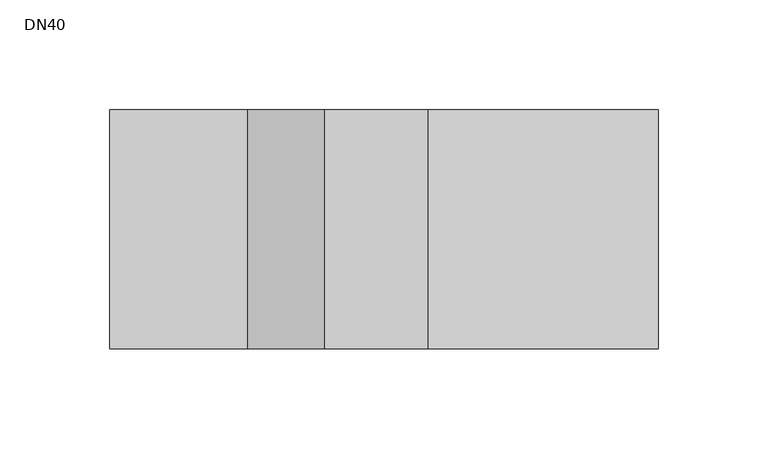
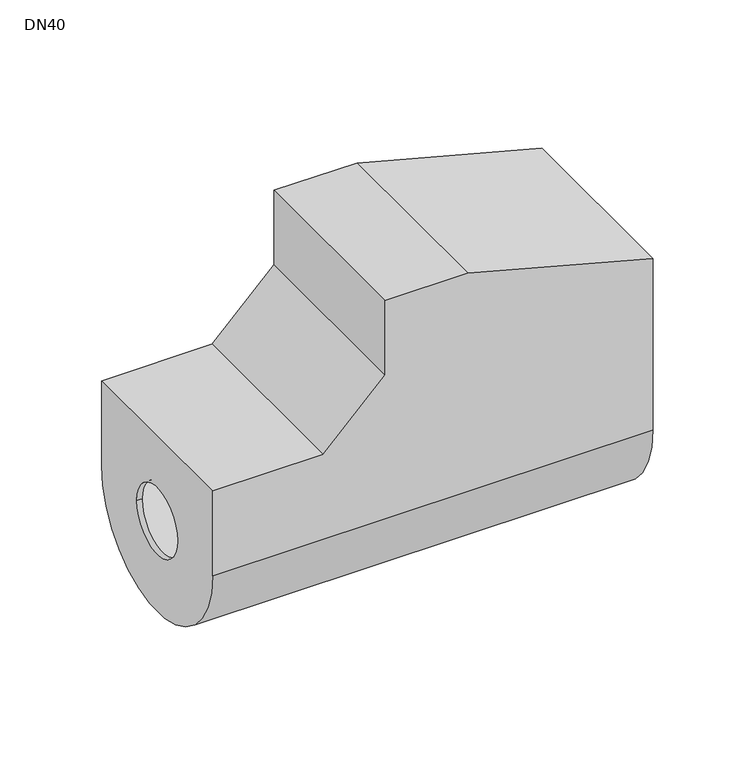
"""IFC4 building model written with IfcOpenShell, lengths in millimetres: valve geometry, 400_5-_KOMF_Isolatieschaal_DN20-50 : DN40."""

from ifc_helpers import new_model, si_unit, frame, origin, place, context, project, spatial, polyline, circle_curve, source, transform, mapped, element, save
from ifc_brep_helpers import plane_surface, cylinder_surface, revolved_surface, advanced_brep


def dn40_05d662e0(model_context):
    return source(origin(), model_context, "Body", "AdvancedBrep", [
        advanced_brep(
        [(0.0, 54.5, 131.0), (47.0, 54.5, 131.0), (152.0, 54.5, 102.9711306), (152.0, 54.5, 0.0), (-98.0, 54.5, 0.0), (-98.0, 54.5, 51.0), (-35.3553391, 54.5, 51.0), (0.0, 54.5, 86.3553391), (152.0, -54.5, 102.9711306), (47.0, -54.5, 131.0), (0.0, -54.5, 131.0), (0.0, -54.5, 86.3553391), (-35.3553391, -54.5, 51.0), (-98.0, -54.5, 51.0), (-98.0, -54.5, 0.0), (152.0, -54.5, 0.0), (-98.0, 7.3654599, -54.0), (-98.0, -7.3654599, -54.0), (-98.0, -19.9999998, -4e-07), (-98.0, 20.0000002, -4e-07), (152.0, -7.3654599, -54.0), (152.0, 7.3654599, -54.0), (152.0, 20.0000002, -4e-07), (152.0, -19.9999998, -4e-07), (-95.0, -19.9999998, -4e-07), (-95.0, 20.0000002, -4e-07), (149.0, 20.0000002, -4e-07), (149.0, -19.9999998, -4e-07), (149.0, 51.5, 0.0), (149.0, -51.5, 0.0), (149.0, -51.5, 100.6843036), (149.0, 51.5, 100.6843036), (-95.0, -51.5, 48.0), (-95.0, -51.5, 0.0), (-95.0, 51.5, 0.0), (-95.0, 51.5, 48.0), (-34.1126984, -51.5, 48.0), (3.0, -51.5, 85.1126984), (3.0, -51.5, 128.0), (46.5953113, -51.5, 128.0), (46.5953113, 51.5, 128.0), (3.0, 51.5, 128.0), (3.0, 51.5, 85.1126984), (-34.1126984, 51.5, 48.0)],
        [
            (0, 1),
            (1, 2),
            (2, 3),
            (3, 4),
            (4, 5),
            (5, 6),
            (6, 7),
            (7, 0),
            (8, 9),
            (9, 10),
            (10, 11),
            (11, 12),
            (12, 13),
            (13, 14),
            (14, 15),
            (15, 8),
            (13, 5),
            (4, 16, circle_curve(frame((-98.0, 0.0, 0.0), z_axis=(-1.0, 0.0, 0.0), x_axis=(0.0, 1.0, 0.0)), 54.5)),
            (16, 17),
            (17, 14, circle_curve(frame((-98.0, 0.0, 0.0), z_axis=(-1.0, 0.0, 0.0), x_axis=(0.0, 1.0, 0.0)), 54.5)),
            (18, 19, circle_curve(frame((-98.0, 2e-07, -4e-07), z_axis=(1.0, 0.0, 0.0), x_axis=(0.0, 1.0, 0.0)), 20.0)),
            (19, 18, circle_curve(frame((-98.0, 2e-07, -4e-07), z_axis=(1.0, 0.0, 0.0), x_axis=(0.0, 1.0, 0.0)), 20.0)),
            (12, 6),
            (10, 0),
            (7, 11),
            (9, 1),
            (8, 2),
            (15, 20, circle_curve(frame((152.0, 0.0, 0.0), z_axis=(1.0, 0.0, 0.0), x_axis=(0.0, 1.0, 0.0)), 54.5)),
            (20, 21),
            (21, 3, circle_curve(frame((152.0, 0.0, 0.0), z_axis=(1.0, 0.0, 0.0), x_axis=(0.0, 1.0, 0.0)), 54.5)),
            (22, 23, circle_curve(frame((152.0, 2e-07, -4e-07), z_axis=(-1.0, 0.0, 0.0), x_axis=(0.0, 1.0, 0.0)), 20.0)),
            (23, 22, circle_curve(frame((152.0, 2e-07, -4e-07), z_axis=(-1.0, 0.0, 0.0), x_axis=(0.0, 1.0, 0.0)), 20.0)),
            (16, 21),
            (20, 17),
            (18, 24),
            (24, 25, circle_curve(frame((-95.0, 2e-07, -4e-07), z_axis=(1.0, 0.0, 0.0), x_axis=(0.0, 1.0, 0.0)), 20.0)),
            (25, 19),
            (22, 26),
            (26, 27, circle_curve(frame((149.0, 2e-07, -4e-07), z_axis=(-1.0, 0.0, 0.0), x_axis=(0.0, 1.0, 0.0)), 20.0)),
            (27, 23),
            (25, 24, circle_curve(frame((-95.0, 2e-07, -4e-07), z_axis=(1.0, 0.0, 0.0), x_axis=(0.0, 1.0, 0.0)), 20.0)),
            (27, 26, circle_curve(frame((149.0, 2e-07, -4e-07), z_axis=(-1.0, 0.0, 0.0), x_axis=(0.0, 1.0, 0.0)), 20.0)),
            (28, 29, circle_curve(frame((149.0, 0.0, 0.0), z_axis=(-1.0, 0.0, 0.0), x_axis=(0.0, 1.0, 0.0)), 51.5)),
            (29, 30),
            (30, 31),
            (31, 28),
            (32, 33),
            (33, 34, circle_curve(frame((-95.0, 0.0, 0.0), z_axis=(1.0, 0.0, 0.0), x_axis=(0.0, 1.0, 0.0)), 51.5)),
            (34, 35),
            (35, 32),
            (32, 36),
            (36, 37),
            (37, 38),
            (38, 39),
            (39, 30),
            (29, 33),
            (28, 34),
            (31, 40),
            (40, 41),
            (41, 42),
            (42, 43),
            (43, 35),
            (43, 36),
            (41, 38),
            (37, 42),
            (39, 40),
        ],
        [
            plane_surface(frame((-98.0, 54.5, -54.0), z_axis=(0.0, 1.0, 0.0), x_axis=(0.0, 0.0, 1.0))),
            plane_surface(frame((-98.0, -54.5, -54.0), z_axis=(0.0, -1.0, 0.0), x_axis=(0.0, 0.0, -1.0))),
            plane_surface(frame((-98.0, 54.5, -54.0), z_axis=(-1.0, 0.0, 0.0), x_axis=(0.0, -1.0, 0.0))),
            plane_surface(frame((-98.0, 54.5, 51.0), z_axis=(0.0, 0.0, 1.0), x_axis=(0.0, -1.0, 0.0))),
            plane_surface(frame((0.0, 54.5, 51.0), z_axis=(-1.0, 0.0, 0.0), x_axis=(0.0, -1.0, 0.0))),
            plane_surface(frame((0.0, 54.5, 131.0), z_axis=(0.0, 0.0, 1.0), x_axis=(0.0, -1.0, 0.0))),
            plane_surface(frame((47.0, 54.5, 131.0), z_axis=(0.25791065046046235, 0.0, 0.9661687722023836), x_axis=(0.0, -1.0, 0.0))),
            plane_surface(frame((152.0, 54.5, 102.9711306), z_axis=(1.0, 0.0, 0.0), x_axis=(0.0, -1.0, 0.0))),
            plane_surface(frame((152.0, 54.5, -54.0), z_axis=(0.0, 0.0, -1.0), x_axis=(0.0, -1.0, 0.0))),
            revolved_surface(polyline([(-95.0, 20.0000002, -4e-07), (-98.0, 20.0000002, -4e-07)]), (-98.0, 2e-07, -4e-07), (1.0, 0.0, 0.0)),
            revolved_surface(polyline([(152.0, 20.0000002, -4e-07), (149.0, 20.0000002, -4e-07)]), (-98.0, 2e-07, -4e-07), (1.0, 0.0, 0.0)),
            plane_surface(frame((0.0, -54.5, 86.3553391), z_axis=(-0.7071067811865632, 0.0, 0.7071067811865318), x_axis=(0.0, 1.0, 0.0))),
            cylinder_surface(frame((-98.0, 0.0, 0.0), z_axis=(-1.0, 0.0, 0.0), x_axis=(0.0, 1.0, 0.0)), 54.5),
            plane_surface(frame((149.0, -51.5, 48.0), z_axis=(-1.0, 0.0, 0.0), x_axis=(0.0, 0.0, -1.0))),
            plane_surface(frame((-95.0, -51.5, 48.0), z_axis=(1.0, 0.0, 0.0), x_axis=(0.0, 0.0, 1.0))),
            plane_surface(frame((149.0, -51.5, 48.0), z_axis=(0.0, 1.0, 0.0), x_axis=(-1.0, 0.0, 0.0))),
            revolved_surface(polyline([(149.0, 51.5, 0.0), (-95.0, 51.5, 0.0)]), (-95.0, 0.0, 0.0), (1.0, 0.0, 0.0)),
            plane_surface(frame((149.0, 51.5, 0.0), z_axis=(0.0, -1.0, 0.0), x_axis=(-1.0, 0.0, 0.0))),
            plane_surface(frame((149.0, 51.5, 48.0), z_axis=(0.0, 0.0, -1.0), x_axis=(-1.0, 0.0, 0.0))),
            plane_surface(frame((3.0, -51.5, 128.0), z_axis=(1.0, 0.0, 0.0), x_axis=(0.0, 1.0, 0.0))),
            plane_surface(frame((149.0, -51.5, 100.6843036), z_axis=(-0.25773117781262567, 0.0, -0.9662166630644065), x_axis=(0.0, 1.0, 0.0))),
            plane_surface(frame((46.5953113, -51.5, 128.0), z_axis=(0.0, 0.0, -1.0), x_axis=(0.0, 1.0, 0.0))),
            plane_surface(frame((3.0, -51.5, 85.1126984), z_axis=(0.7071067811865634, 0.0, -0.7071067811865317), x_axis=(0.0, 1.0, 0.0))),
        ],
        [
            (0, [[1, 2, 3, 4, 5, 6, 7, 8]]),
            (1, [[9, 10, 11, 12, 13, 14, 15, 16]]),
            (2, [[17, -5, 18, 19, 20, -14], [21, 22]]),
            (3, [[-17, -13, 23, -6]]),
            (4, [[24, -8, 25, -11]]),
            (5, [[-1, -24, -10, 26]]),
            (6, [[-2, -26, -9, 27]]),
            (7, [[-27, -16, 28, 29, 30, -3], [31, 32]]),
            (8, [[-19, 33, -29, 34]]),
            (9, [[-21, 35, 36, 37]]),
            (10, [[-31, 38, 39, 40]]),
            (9, [[-22, -37, 41, -35]]),
            (10, [[-32, -40, 42, -38]]),
            (11, [[-12, -25, -7, -23]]),
            (12, [[-4, -30, -33, -18]]),
            (12, [[-15, -20, -34, -28]]),
            (13, [[43, 44, 45, 46], [-39, -42]]),
            (14, [[47, 48, 49, 50], [-36, -41]]),
            (15, [[-47, 51, 52, 53, 54, 55, -44, 56]]),
            (16, [[-43, 57, -48, -56]]),
            (17, [[-49, -57, -46, 58, 59, 60, 61, 62]]),
            (18, [[-50, -62, 63, -51]]),
            (19, [[64, -53, 65, -60]]),
            (20, [[-55, 66, -58, -45]]),
            (21, [[-54, -64, -59, -66]]),
            (22, [[-52, -63, -61, -65]]),
        ],
    ),
    ])


if __name__ == "__main__":
    model = new_model("IFC4")
    model_context = context("Model", 3, world=origin())
    ifc_project = project(units=[si_unit("LENGTHUNIT", "METRE", prefix="MILLI")], contexts=[model_context])
    site = spatial("IfcSite", under=ifc_project)
    building = spatial("IfcBuilding", under=site)
    placement = place(None, origin())
    dn40_shape = dn40_05d662e0(model_context)
    element("IfcValve", 1, ObjectType="400_5-_KOMF_Isolatieschaal_DN20-50 : DN40", at=placement, inside=building, context=model_context, shape_type="MappedRepresentation", body=[
        mapped(dn40_shape, transform((0.0, 0.0, 0.0), x_axis=(1.0, 0.0, 0.0), y_axis=(0.0, 1.0, 0.0), z_axis=(0.0, 0.0, 1.0))),
    ])
    save(model, "model.ifc")
